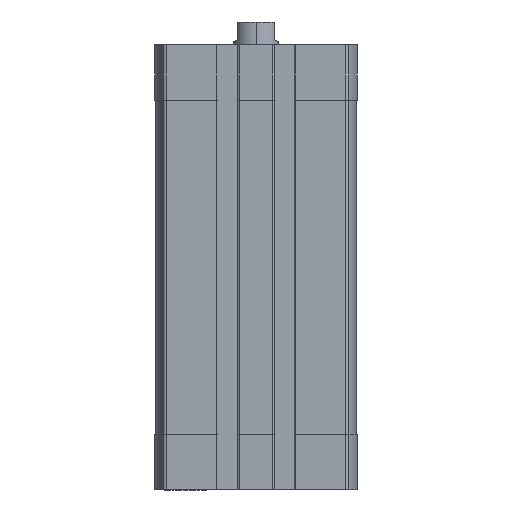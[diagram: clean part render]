
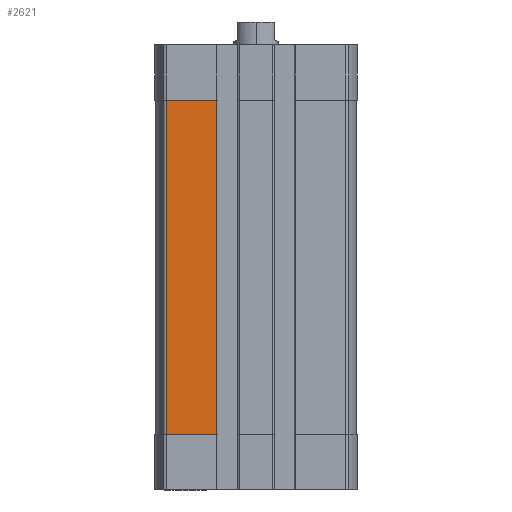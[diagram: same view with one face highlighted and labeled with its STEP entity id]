
A CAD part, left-side view. The second image highlights one B-rep face of the part: STEP entity #2621.
In plain terms, the highlighted planar face has unit normal (-1, 0, 0).
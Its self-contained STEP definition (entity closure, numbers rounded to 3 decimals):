
#389 = ORIENTED_EDGE ( 'NONE', *, *, #10241, .T. ) ;
#521 = CARTESIAN_POINT ( 'NONE',  ( -27., 24.093, -105. ) ) ;
#833 = EDGE_CURVE ( 'NONE', #3476, #11955, #5151, .T. ) ;
#936 = DIRECTION ( 'NONE',  ( 0., 1., 0. ) ) ;
#1403 = VERTEX_POINT ( 'NONE', #12549 ) ;
#1708 = CARTESIAN_POINT ( 'NONE',  ( -27., 10.7, -105. ) ) ;
#2621 = ADVANCED_FACE ( 'NONE', ( #14760 ), #11615, .T. ) ;
#3126 = DIRECTION ( 'NONE',  ( 0., -1., 0. ) ) ;
#3476 = VERTEX_POINT ( 'NONE', #5160 ) ;
#4085 = EDGE_LOOP ( 'NONE', ( #10973, #10545, #6422, #389 ) ) ;
#4168 = EDGE_CURVE ( 'NONE', #10921, #1403, #12150, .T. ) ;
#4342 = AXIS2_PLACEMENT_3D ( 'NONE', #10414, #10212, #10157 ) ;
#5151 = LINE ( 'NONE', #521, #10839 ) ;
#5160 = CARTESIAN_POINT ( 'NONE',  ( -27., 24.093, -105. ) ) ;
#6422 = ORIENTED_EDGE ( 'NONE', *, *, #4168, .T. ) ;
#7252 = EDGE_CURVE ( 'NONE', #11955, #10921, #10001, .T. ) ;
#7809 = CARTESIAN_POINT ( 'NONE',  ( -27., 10.7, -15. ) ) ;
#8845 = VECTOR ( 'NONE', #8891, 1000. ) ;
#8891 = DIRECTION ( 'NONE',  ( 0., 0., -1. ) ) ;
#8995 = VECTOR ( 'NONE', #936, 1000. ) ;
#9226 = LINE ( 'NONE', #13618, #8845 ) ;
#10001 = LINE ( 'NONE', #13510, #13132 ) ;
#10157 = DIRECTION ( 'NONE',  ( 0., 0., 1. ) ) ;
#10212 = DIRECTION ( 'NONE',  ( -1., 0., 0. ) ) ;
#10241 = EDGE_CURVE ( 'NONE', #1403, #3476, #9226, .T. ) ;
#10414 = CARTESIAN_POINT ( 'NONE',  ( -27., 24.093, -105. ) ) ;
#10545 = ORIENTED_EDGE ( 'NONE', *, *, #7252, .T. ) ;
#10839 = VECTOR ( 'NONE', #3126, 1000. ) ;
#10921 = VERTEX_POINT ( 'NONE', #7809 ) ;
#10973 = ORIENTED_EDGE ( 'NONE', *, *, #833, .T. ) ;
#11168 = DIRECTION ( 'NONE',  ( 0., 0., 1. ) ) ;
#11615 = PLANE ( 'NONE',  #4342 ) ;
#11829 = CARTESIAN_POINT ( 'NONE',  ( -27., 0., -15. ) ) ;
#11955 = VERTEX_POINT ( 'NONE', #1708 ) ;
#12150 = LINE ( 'NONE', #11829, #8995 ) ;
#12549 = CARTESIAN_POINT ( 'NONE',  ( -27., 24.093, -15. ) ) ;
#13132 = VECTOR ( 'NONE', #11168, 1000. ) ;
#13510 = CARTESIAN_POINT ( 'NONE',  ( -27., 10.7, -105. ) ) ;
#13618 = CARTESIAN_POINT ( 'NONE',  ( -27., 24.093, -105. ) ) ;
#14760 = FACE_OUTER_BOUND ( 'NONE', #4085, .T. ) ;
